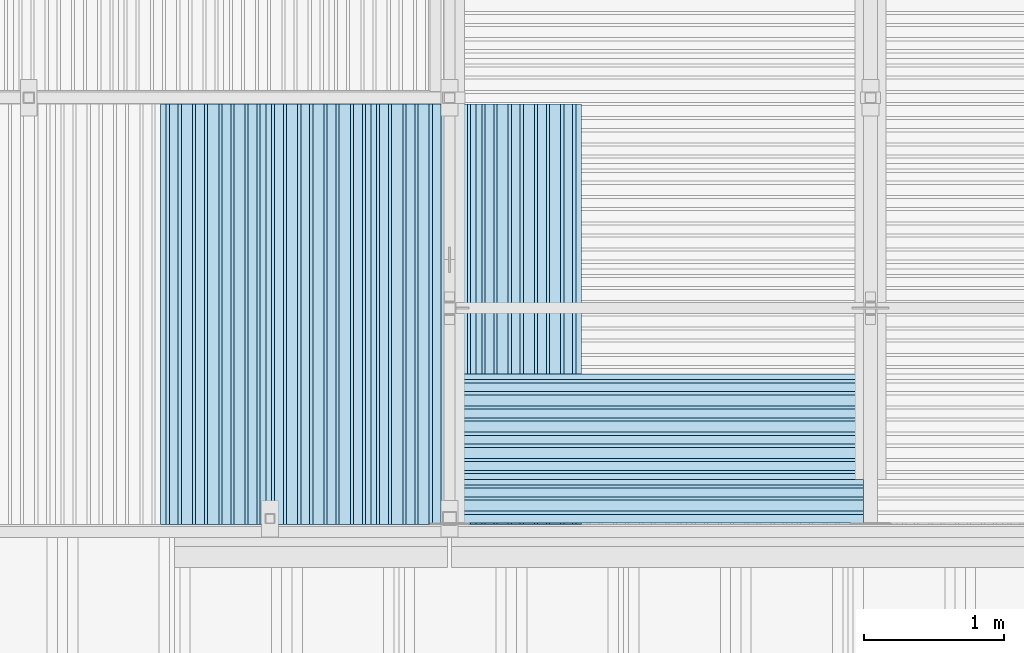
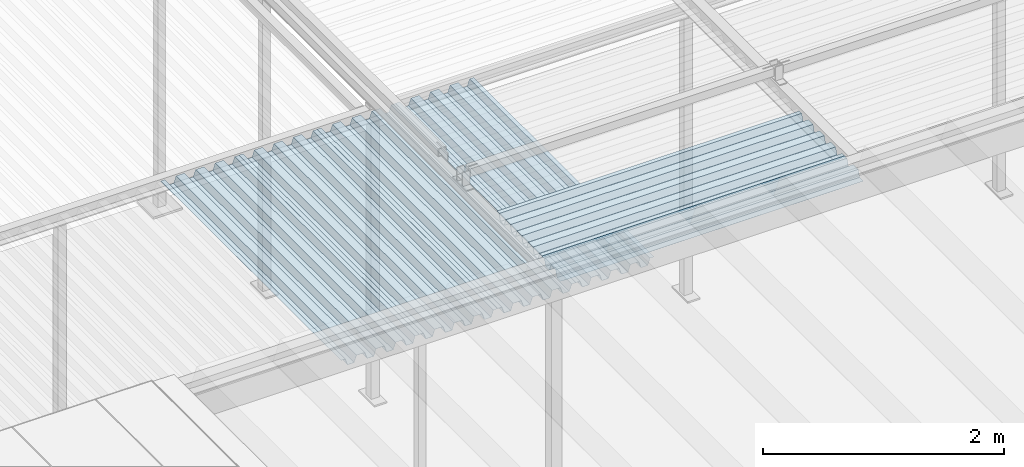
# One storey, part 60 of 98: 6 slabs.
"""IFC2X3 building model written with IfcOpenShell, lengths in millimetres."""

from ifc_helpers import new_model, entity, si_unit, converted_unit, derived_unit, direction, frame, origin_with_axes, place, context, subcontext, project, spatial, faceted_brep, material, type_object, element, save


model = new_model("IFC2X3")

# Units and contexts
model_context = context("Model", 3, precision=0.01, world=frame((0.0, 4.29681676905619e-09, 0.0)), true_north=direction((4.01073788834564e-13, 1.0)))
plan_context = context("Plan", 3, precision=0.01, world=frame((0.0, 4.29681676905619e-09, 0.0)), true_north=direction((4.01073788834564e-13, 1.0)))
body_context = subcontext(model_context, "Body", "Model", "MODEL_VIEW")
ifc_project = project(units=[converted_unit("PLANEANGLEUNIT", "DEGREE", entity("IfcPositiveLengthMeasure", 0.0174532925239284), si_unit("PLANEANGLEUNIT", "RADIAN"), dimensions=[0, 0, 0, 0, 0, 0, 0]), si_unit("AREAUNIT", "SQUARE_METRE"), si_unit("LENGTHUNIT", "METRE", prefix="MILLI"), si_unit("MASSUNIT", "GRAM", prefix="KILO"), si_unit("POWERUNIT", "WATT"), si_unit("PRESSUREUNIT", "PASCAL"), si_unit("FORCEUNIT", "NEWTON", prefix="KILO"), si_unit("ELECTRICCURRENTUNIT", "AMPERE"), si_unit("THERMODYNAMICTEMPERATUREUNIT", "DEGREE_CELSIUS"), si_unit("TIMEUNIT", "SECOND"), si_unit("VOLUMEUNIT", "CUBIC_METRE"), derived_unit("LINEARVELOCITYUNIT", [(si_unit("LENGTHUNIT", "METRE"), 1), (si_unit("TIMEUNIT", "SECOND"), -1)]), derived_unit("VOLUMETRICFLOWRATEUNIT", [(si_unit("VOLUMEUNIT", "CUBIC_METRE"), 1), (si_unit("TIMEUNIT", "SECOND"), -1)]), derived_unit("THERMALTRANSMITTANCEUNIT", [(si_unit("POWERUNIT", "WATT"), 1), (si_unit("THERMODYNAMICTEMPERATUREUNIT", "KELVIN"), -1), (si_unit("AREAUNIT", "SQUARE_METRE"), -1)])], contexts=[model_context, plan_context])

# Site, building, storey
site_placement = place(None, frame((0.0, -4.29681676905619e-09, 0.0), z_axis=(0.0, 0.0, 1.0), x_axis=(1.0, 0.0, 0.0)))
site = spatial("IfcSite", under=ifc_project, at=site_placement, Name="Gardermoen", CompositionType="ELEMENT")
building_placement = place(site_placement, frame((0.0, 4.29681676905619e-09, 0.0), z_axis=(0.0, 0.0, 1.0), x_axis=(1.0, 0.0, 0.0)))
building = spatial("IfcBuilding", under=site, at=building_placement, Name="TS", CompositionType="ELEMENT")
storey_placement = place(building_placement, origin_with_axes())
storey = spatial("IfcBuildingStorey", under=building, at=storey_placement, Name="D", CompositionType="ELEMENT", Elevation=0.0)

# Slabs
ifc_material = material(Name="STEEL/S355")
slab_type = type_object("IfcSlabType", Name="PLANJA70", PredefinedType="NOTDEFINED")
slab_1_placement = place(storey_placement, frame((522950.000000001, 414404.996695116, 206958.849718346), z_axis=(0.0, 0.0, 1.0), x_axis=(-0.999999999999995, -9.99999902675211e-08, 0.0)))
element("IfcSlab", 1, at=slab_1_placement, inside=storey, type_object=slab_type, material=ifc_material, Name="STÅLTAK", ObjectType="PLANJA70", PredefinedType="FLOOR", context=body_context, shape_type="Brep", body=[
    faceted_brep([(0.0, -148.519882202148, 33.1500015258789), (0.0, -126.0, -34.1500015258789), (2900.00079747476, -126.0, -34.1500015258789), (2900.00079747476, -148.519882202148, 33.1500015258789), (0.0, -226.480117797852, 33.1500015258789), (2900.00079747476, -226.480117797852, 33.1500015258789), (0.0, -249.0, -34.1500015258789), (2900.00079747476, -249.0, -34.1500015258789), (0.0, -313.5, -34.1500015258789), (2900.00079747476, -313.5, -34.1500015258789), (0.0, -335.789306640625, 32.1500015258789), (2900.00079747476, -335.789306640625, 32.1500015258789), (0.0, -375.0, 32.1500015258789), (2900.00079747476, -375.0, 32.1500015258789), (0.0, -375.0, 33.1500015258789), (2900.00079747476, -375.0, 33.1500015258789), (0.0, -335.070495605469, 33.1500015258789), (2900.00079747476, -335.070495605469, 33.1500015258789), (0.0, -312.781188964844, -33.1500015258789), (2900.00079747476, -312.781188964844, -33.1500015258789), (0.0, -249.719879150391, -33.1500015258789), (2900.00079747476, -249.719879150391, -33.1500015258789), (0.0, -227.199996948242, 34.1500015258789), (2900.00079747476, -227.199996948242, 34.1500015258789), (0.0, -147.800003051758, 34.1500015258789), (2900.00079747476, -147.800003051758, 34.1500015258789), (0.0, -125.280120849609, -33.1500015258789), (2900.00079747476, -125.280120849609, -33.1500015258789), (2900.00079747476, -62.2198791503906, -33.1500015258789), (0.0, -62.2198791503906, -33.1500015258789), (0.0, -62.2198791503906, -34.1500015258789), (2900.00079747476, -62.2198791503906, -34.1500015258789)], [[[0, 1, 2, 3]], [[4, 0, 3, 5]], [[6, 4, 5, 7]], [[8, 6, 7, 9]], [[10, 8, 9, 11]], [[12, 10, 11, 13]], [[14, 12, 13, 15]], [[16, 14, 15, 17]], [[18, 16, 17, 19]], [[20, 18, 19, 21]], [[22, 20, 21, 23]], [[24, 22, 23, 25]], [[26, 24, 25, 27]], [[26, 27, 28, 29]], [[1, 0, 4, 6, 8, 10, 12, 14, 16, 18, 20, 22, 24, 26, 29, 30]], [[2, 1, 30, 31]], [[27, 25, 23, 21, 19, 17, 15, 13, 11, 9, 7, 5, 3, 2, 31, 28]], [[30, 29, 28, 31]]]),
])
slab_2_placement = place(storey_placement, frame((522950.000000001, 415154.996695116, 206958.849718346), z_axis=(0.0, 0.0, 1.0), x_axis=(-0.999999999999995, -9.99999902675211e-08, 0.0)))
element("IfcSlab", 2, at=slab_2_placement, inside=storey, type_object=slab_type, material=ifc_material, Name="STÅLTAK", ObjectType="PLANJA70", PredefinedType="FLOOR", context=body_context, shape_type="Brep", body=[
    faceted_brep([(0.0, 375.0, 34.1500015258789), (0.0, 335.299987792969, 34.1500015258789), (2900.00079747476, 335.299987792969, 34.1500015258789), (2900.00079747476, 375.0, 34.1500015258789), (0.0, 313.010681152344, -32.1500015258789), (2900.00079747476, 313.010681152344, -32.1500015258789), (0.0, 249.489303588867, -32.1500015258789), (2900.00079747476, 249.489303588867, -32.1500015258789), (0.0, 227.199996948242, 34.1500015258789), (2900.00079747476, 227.199996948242, 34.1500015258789), (0.0, 147.800003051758, 34.1500015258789), (2900.00079747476, 147.800003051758, 34.1500015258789), (0.0, 125.280120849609, -33.1500015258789), (2900.00079747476, 125.280120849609, -33.1500015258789), (0.0, 62.2198791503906, -33.1500015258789), (2900.00079747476, 62.2198791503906, -33.1500015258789), (0.0, 39.7000007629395, 34.1500015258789), (2900.00079747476, 39.7000007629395, 34.1500015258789), (0.0, -39.7000007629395, 34.1500015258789), (2900.00079747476, -39.7000007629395, 34.1500015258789), (0.0, -62.2198791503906, -33.1500015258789), (2900.00079747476, -62.2198791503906, -33.1500015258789), (0.0, -125.280120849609, -33.1500015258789), (2900.00079747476, -125.280120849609, -33.1500015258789), (0.0, -147.800003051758, 34.1500015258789), (2900.00079747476, -147.800003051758, 34.1500015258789), (0.0, -227.199996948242, 34.1500015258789), (2900.00079747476, -227.199996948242, 34.1500015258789), (0.0, -249.719879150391, -33.1500015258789), (2900.00079747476, -249.719879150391, -33.1500015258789), (0.0, -312.781188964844, -33.1500015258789), (2900.00079747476, -312.781188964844, -33.1500015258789), (0.0, -335.070495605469, 33.1500015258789), (2900.00079747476, -335.070495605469, 33.1500015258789), (0.0, -375.0, 33.1500015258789), (2900.00079747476, -375.0, 33.1500015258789), (0.0, -375.0, 32.1500015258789), (2900.00079747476, -375.0, 32.1500015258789), (0.0, -335.789306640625, 32.1500015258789), (2900.00079747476, -335.789306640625, 32.1500015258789), (0.0, -313.5, -34.1500015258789), (2900.00079747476, -313.5, -34.1500015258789), (0.0, -249.0, -34.1500015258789), (2900.00079747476, -249.0, -34.1500015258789), (0.0, -226.480117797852, 33.1500015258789), (2900.00079747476, -226.480117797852, 33.1500015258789), (0.0, -148.519882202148, 33.1500015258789), (2900.00079747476, -148.519882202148, 33.1500015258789), (0.0, -126.0, -34.1500015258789), (2900.00079747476, -126.0, -34.1500015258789), (0.0, -61.5, -34.1500015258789), (2900.00079747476, -61.5, -34.1500015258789), (0.0, -38.9801177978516, 33.1500015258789), (2900.00079747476, -38.9801177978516, 33.1500015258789), (0.0, 38.9801177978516, 33.1500015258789), (2900.00079747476, 38.9801177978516, 33.1500015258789), (0.0, 61.5, -34.1500015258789), (2900.00079747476, 61.5, -34.1500015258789), (0.0, 126.0, -34.1500015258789), (2900.00079747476, 126.0, -34.1500015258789), (0.0, 148.519882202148, 33.1500015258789), (2900.00079747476, 148.519882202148, 33.1500015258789), (0.0, 226.481185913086, 33.1500015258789), (2900.00079747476, 226.481185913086, 33.1500015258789), (0.0, 248.770492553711, -33.1500015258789), (2900.00079747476, 248.770492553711, -33.1500015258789), (0.0, 313.7294921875, -33.1500015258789), (2900.00079747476, 313.7294921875, -33.1500015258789), (0.0, 336.018798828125, 33.1500015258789), (2900.00079747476, 336.018798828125, 33.1500015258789), (0.0, 375.0, 33.1500015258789), (2900.00079747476, 375.0, 33.1500015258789)], [[[0, 1, 2, 3]], [[1, 4, 5, 2]], [[4, 6, 7, 5]], [[6, 8, 9, 7]], [[8, 10, 11, 9]], [[10, 12, 13, 11]], [[12, 14, 15, 13]], [[14, 16, 17, 15]], [[16, 18, 19, 17]], [[18, 20, 21, 19]], [[22, 23, 21, 20]], [[22, 24, 25, 23]], [[24, 26, 27, 25]], [[26, 28, 29, 27]], [[28, 30, 31, 29]], [[30, 32, 33, 31]], [[32, 34, 35, 33]], [[34, 36, 37, 35]], [[36, 38, 39, 37]], [[38, 40, 41, 39]], [[40, 42, 43, 41]], [[42, 44, 45, 43]], [[44, 46, 47, 45]], [[46, 48, 49, 47]], [[48, 50, 51, 49]], [[50, 52, 53, 51]], [[52, 54, 55, 53]], [[54, 56, 57, 55]], [[56, 58, 59, 57]], [[58, 60, 61, 59]], [[60, 62, 63, 61]], [[62, 64, 65, 63]], [[64, 66, 67, 65]], [[66, 68, 69, 67]], [[68, 70, 71, 69]], [[70, 0, 3, 71]], [[5, 7, 9, 11, 13, 15, 17, 19, 21, 23, 25, 27, 29, 31, 33, 35, 37, 39, 41, 43, 45, 47, 49, 51, 53, 55, 57, 59, 61, 63, 65, 67, 69, 71, 3, 2]], [[70, 68, 66, 64, 62, 60, 58, 56, 54, 52, 50, 48, 46, 44, 42, 40, 38, 36, 34, 32, 30, 28, 26, 24, 22, 20, 18, 16, 14, 12, 10, 8, 6, 4, 1, 0]]]),
])
slab_3_placement = place(storey_placement, frame((518314.996695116, 414458.999999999, 206834.129718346), z_axis=(0.0, 0.0, 1.0), x_axis=(0.0, 1.0, 0.0)))
element("IfcSlab", 3, at=slab_3_placement, inside=storey, type_object=slab_type, material=ifc_material, Name="STÅLTAK", ObjectType="PLANJA70", PredefinedType="FLOOR", context=body_context, shape_type="Brep", body=[
    faceted_brep([(0.0, 375.0, 34.1500015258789), (0.0, 335.299987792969, 34.1500015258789), (2995.66049790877, 335.299987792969, 34.1500015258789), (2995.66049790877, 375.0, 34.1500015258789), (0.0, 313.010681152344, -32.1500015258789), (2995.66049790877, 313.010681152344, -32.1500015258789), (0.0, 249.489303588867, -32.1500015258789), (2995.66049790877, 249.489303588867, -32.1500015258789), (0.0, 227.199996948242, 34.1500015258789), (2995.66049790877, 227.199996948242, 34.1500015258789), (0.0, 147.800003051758, 34.1500015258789), (2995.66049790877, 147.800003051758, 34.1500015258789), (0.0, 125.280120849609, -33.1500015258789), (2995.66049790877, 125.280120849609, -33.1500015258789), (0.0, 62.2198791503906, -33.1500015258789), (2995.66049790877, 62.2198791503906, -33.1500015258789), (0.0, 39.7000007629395, 34.1500015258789), (2995.66049790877, 39.7000007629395, 34.1500015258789), (0.0, -39.7000007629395, 34.1500015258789), (2995.66049790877, -39.7000007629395, 34.1500015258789), (0.0, -62.2198791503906, -33.1500015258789), (2995.66049790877, -62.2198791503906, -33.1500015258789), (0.0, -125.280120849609, -33.1500015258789), (2995.66049790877, -125.280120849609, -33.1500015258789), (0.0, -147.800003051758, 34.1500015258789), (2995.66049790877, -147.800003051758, 34.1500015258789), (0.0, -227.199996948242, 34.1500015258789), (2995.66049790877, -227.199996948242, 34.1500015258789), (0.0, -249.719879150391, -33.1500015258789), (2995.66049790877, -249.719879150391, -33.1500015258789), (0.0, -312.781188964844, -33.1500015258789), (2995.66049790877, -312.781188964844, -33.1500015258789), (0.0, -335.070495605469, 33.1500015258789), (2995.66049790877, -335.070495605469, 33.1500015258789), (0.0, -375.0, 33.1500015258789), (2995.66049790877, -375.0, 33.1500015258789), (0.0, -375.0, 32.1500015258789), (2995.66049790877, -375.0, 32.1500015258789), (0.0, -335.789306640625, 32.1500015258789), (2995.66049790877, -335.789306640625, 32.1500015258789), (0.0, -313.5, -34.1500015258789), (2995.66049790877, -313.5, -34.1500015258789), (0.0, -249.0, -34.1500015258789), (2995.66049790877, -249.0, -34.1500015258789), (0.0, -226.480117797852, 33.1500015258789), (2995.66049790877, -226.480117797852, 33.1500015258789), (0.0, -148.519882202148, 33.1500015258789), (2995.66049790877, -148.519882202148, 33.1500015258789), (0.0, -126.0, -34.1500015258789), (2995.66049790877, -126.0, -34.1500015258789), (0.0, -61.5, -34.1500015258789), (2995.66049790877, -61.5, -34.1500015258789), (0.0, -38.9801177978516, 33.1500015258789), (2995.66049790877, -38.9801177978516, 33.1500015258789), (0.0, 38.9801177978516, 33.1500015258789), (2995.66049790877, 38.9801177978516, 33.1500015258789), (0.0, 61.5, -34.1500015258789), (2995.66049790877, 61.5, -34.1500015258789), (0.0, 126.0, -34.1500015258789), (2995.66049790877, 126.0, -34.1500015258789), (0.0, 148.519882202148, 33.1500015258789), (2995.66049790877, 148.519882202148, 33.1500015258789), (0.0, 226.481185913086, 33.1500015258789), (2995.66049790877, 226.481185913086, 33.1500015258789), (0.0, 248.770492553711, -33.1500015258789), (2995.66049790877, 248.770492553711, -33.1500015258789), (0.0, 313.7294921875, -33.1500015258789), (2995.66049790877, 313.7294921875, -33.1500015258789), (0.0, 336.018798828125, 33.1500015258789), (2995.66049790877, 336.018798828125, 33.1500015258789), (0.0, 375.0, 33.1500015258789), (2995.66049790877, 375.0, 33.1500015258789)], [[[0, 1, 2, 3]], [[1, 4, 5, 2]], [[4, 6, 7, 5]], [[6, 8, 9, 7]], [[8, 10, 11, 9]], [[10, 12, 13, 11]], [[12, 14, 15, 13]], [[14, 16, 17, 15]], [[16, 18, 19, 17]], [[18, 20, 21, 19]], [[20, 22, 23, 21]], [[22, 24, 25, 23]], [[24, 26, 27, 25]], [[26, 28, 29, 27]], [[28, 30, 31, 29]], [[30, 32, 33, 31]], [[32, 34, 35, 33]], [[34, 36, 37, 35]], [[36, 38, 39, 37]], [[38, 40, 41, 39]], [[40, 42, 43, 41]], [[42, 44, 45, 43]], [[44, 46, 47, 45]], [[46, 48, 49, 47]], [[48, 50, 51, 49]], [[50, 52, 53, 51]], [[52, 54, 55, 53]], [[54, 56, 57, 55]], [[56, 58, 59, 57]], [[58, 60, 61, 59]], [[60, 62, 63, 61]], [[62, 64, 65, 63]], [[64, 66, 67, 65]], [[66, 68, 69, 67]], [[68, 70, 71, 69]], [[70, 0, 3, 71]], [[5, 7, 9, 11, 13, 15, 17, 19, 21, 23, 25, 27, 29, 31, 33, 35, 37, 39, 41, 43, 45, 47, 49, 51, 53, 55, 57, 59, 61, 63, 65, 67, 69, 71, 3, 2]], [[70, 68, 66, 64, 62, 60, 58, 56, 54, 52, 50, 48, 46, 44, 42, 40, 38, 36, 34, 32, 30, 28, 26, 24, 22, 20, 18, 16, 14, 12, 10, 8, 6, 4, 1, 0]]]),
])
slab_4_placement = place(storey_placement, frame((519064.996695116, 414458.999999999, 206834.129718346), z_axis=(0.0, 0.0, 1.0), x_axis=(0.0, 1.0, 0.0)))
element("IfcSlab", 4, at=slab_4_placement, inside=storey, type_object=slab_type, material=ifc_material, Name="STÅLTAK", ObjectType="PLANJA70", PredefinedType="FLOOR", context=body_context, shape_type="Brep", body=[
    faceted_brep([(0.0, 375.0, 34.1500015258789), (0.0, 335.299987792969, 34.1500015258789), (2995.66049790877, 335.299987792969, 34.1500015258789), (2995.66049790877, 375.0, 34.1500015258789), (0.0, 313.010681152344, -32.1500015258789), (2995.66049790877, 313.010681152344, -32.1500015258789), (0.0, 249.489303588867, -32.1500015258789), (2995.66049790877, 249.489303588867, -32.1500015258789), (0.0, 227.199996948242, 34.1500015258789), (2995.66049790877, 227.199996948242, 34.1500015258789), (0.0, 147.800003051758, 34.1500015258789), (2995.66049790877, 147.800003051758, 34.1500015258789), (0.0, 125.280120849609, -33.1500015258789), (2995.66049790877, 125.280120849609, -33.1500015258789), (0.0, 62.2198791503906, -33.1500015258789), (2995.66049790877, 62.2198791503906, -33.1500015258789), (0.0, 39.7000007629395, 34.1500015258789), (2995.66049790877, 39.7000007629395, 34.1500015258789), (0.0, -39.7000007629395, 34.1500015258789), (2995.66049790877, -39.7000007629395, 34.1500015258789), (0.0, -62.2198791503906, -33.1500015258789), (2995.66049790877, -62.2198791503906, -33.1500015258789), (0.0, -125.280120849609, -33.1500015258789), (2995.66049790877, -125.280120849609, -33.1500015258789), (0.0, -147.800003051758, 34.1500015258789), (2995.66049790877, -147.800003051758, 34.1500015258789), (0.0, -227.199996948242, 34.1500015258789), (2995.66049790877, -227.199996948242, 34.1500015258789), (0.0, -249.719879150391, -33.1500015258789), (2995.66049790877, -249.719879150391, -33.1500015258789), (0.0, -312.781188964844, -33.1500015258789), (2995.66049790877, -312.781188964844, -33.1500015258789), (0.0, -335.070495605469, 33.1500015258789), (2995.66049790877, -335.070495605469, 33.1500015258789), (0.0, -375.0, 33.1500015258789), (2995.66049790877, -375.0, 33.1500015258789), (0.0, -375.0, 32.1500015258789), (2995.66049790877, -375.0, 32.1500015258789), (0.0, -335.789306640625, 32.1500015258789), (2995.66049790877, -335.789306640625, 32.1500015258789), (0.0, -313.5, -34.1500015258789), (2995.66049790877, -313.5, -34.1500015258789), (0.0, -249.0, -34.1500015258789), (2995.66049790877, -249.0, -34.1500015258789), (0.0, -226.480117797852, 33.1500015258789), (2995.66049790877, -226.480117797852, 33.1500015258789), (0.0, -148.519882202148, 33.1500015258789), (2995.66049790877, -148.519882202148, 33.1500015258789), (0.0, -126.0, -34.1500015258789), (2995.66049790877, -126.0, -34.1500015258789), (0.0, -61.5, -34.1500015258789), (2995.66049790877, -61.5, -34.1500015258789), (0.0, -38.9801177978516, 33.1500015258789), (2995.66049790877, -38.9801177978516, 33.1500015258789), (0.0, 38.9801177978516, 33.1500015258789), (2995.66049790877, 38.9801177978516, 33.1500015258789), (0.0, 61.5, -34.1500015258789), (2995.66049790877, 61.5, -34.1500015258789), (0.0, 126.0, -34.1500015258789), (2995.66049790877, 126.0, -34.1500015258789), (0.0, 148.519882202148, 33.1500015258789), (2995.66049790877, 148.519882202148, 33.1500015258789), (0.0, 226.481185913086, 33.1500015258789), (2995.66049790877, 226.481185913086, 33.1500015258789), (0.0, 248.770492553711, -33.1500015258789), (2995.66049790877, 248.770492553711, -33.1500015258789), (0.0, 313.7294921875, -33.1500015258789), (2995.66049790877, 313.7294921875, -33.1500015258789), (0.0, 336.018798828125, 33.1500015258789), (2995.66049790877, 336.018798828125, 33.1500015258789), (0.0, 375.0, 33.1500015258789), (2995.66049790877, 375.0, 33.1500015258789)], [[[0, 1, 2, 3]], [[1, 4, 5, 2]], [[4, 6, 7, 5]], [[6, 8, 9, 7]], [[8, 10, 11, 9]], [[10, 12, 13, 11]], [[12, 14, 15, 13]], [[14, 16, 17, 15]], [[16, 18, 19, 17]], [[18, 20, 21, 19]], [[20, 22, 23, 21]], [[22, 24, 25, 23]], [[24, 26, 27, 25]], [[26, 28, 29, 27]], [[28, 30, 31, 29]], [[30, 32, 33, 31]], [[32, 34, 35, 33]], [[34, 36, 37, 35]], [[36, 38, 39, 37]], [[38, 40, 41, 39]], [[40, 42, 43, 41]], [[42, 44, 45, 43]], [[44, 46, 47, 45]], [[46, 48, 49, 47]], [[48, 50, 51, 49]], [[50, 52, 53, 51]], [[52, 54, 55, 53]], [[54, 56, 57, 55]], [[56, 58, 59, 57]], [[58, 60, 61, 59]], [[60, 62, 63, 61]], [[62, 64, 65, 63]], [[64, 66, 67, 65]], [[66, 68, 69, 67]], [[68, 70, 71, 69]], [[70, 0, 3, 71]], [[5, 7, 9, 11, 13, 15, 17, 19, 21, 23, 25, 27, 29, 31, 33, 35, 37, 39, 41, 43, 45, 47, 49, 51, 53, 55, 57, 59, 61, 63, 65, 67, 69, 71, 3, 2]], [[70, 68, 66, 64, 62, 60, 58, 56, 54, 52, 50, 48, 46, 44, 42, 40, 38, 36, 34, 32, 30, 28, 26, 24, 22, 20, 18, 16, 14, 12, 10, 8, 6, 4, 1, 0]]]),
])
slab_5_placement = place(storey_placement, frame((519814.996695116, 414458.999999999, 206834.129718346), z_axis=(0.0, 0.0, 1.0), x_axis=(0.0, 1.0, 0.0)))
element("IfcSlab", 5, at=slab_5_placement, inside=storey, type_object=slab_type, material=ifc_material, Name="STÅLTAK", ObjectType="PLANJA70", PredefinedType="FLOOR", context=body_context, shape_type="Brep", body=[
    faceted_brep([(0.0, 375.0, 34.1500015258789), (0.0, 335.299987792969, 34.1500015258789), (2995.66049790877, 335.299987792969, 34.1500015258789), (2995.66049790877, 375.0, 34.1500015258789), (0.0, 313.010681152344, -32.1500015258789), (2995.66049790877, 313.010681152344, -32.1500015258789), (0.0, 249.489303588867, -32.1500015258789), (2995.66049790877, 249.489303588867, -32.1500015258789), (0.0, 227.199996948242, 34.1500015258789), (2995.66049790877, 227.199996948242, 34.1500015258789), (0.0, 147.800003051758, 34.1500015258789), (2995.66049790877, 147.800003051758, 34.1500015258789), (0.0, 125.280120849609, -33.1500015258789), (2995.66049790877, 125.280120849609, -33.1500015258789), (0.0, 62.2198791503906, -33.1500015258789), (2995.66049790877, 62.2198791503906, -33.1500015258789), (0.0, 39.7000007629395, 34.1500015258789), (2995.66049790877, 39.7000007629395, 34.1500015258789), (0.0, -39.7000007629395, 34.1500015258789), (2995.66049790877, -39.7000007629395, 34.1500015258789), (0.0, -62.2198791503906, -33.1500015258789), (2995.66049790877, -62.2198791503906, -33.1500015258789), (0.0, -125.280120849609, -33.1500015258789), (2995.66049790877, -125.280120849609, -33.1500015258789), (0.0, -147.800003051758, 34.1500015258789), (2995.66049790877, -147.800003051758, 34.1500015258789), (0.0, -227.199996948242, 34.1500015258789), (2995.66049790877, -227.199996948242, 34.1500015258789), (0.0, -249.719879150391, -33.1500015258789), (2995.66049790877, -249.719879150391, -33.1500015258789), (0.0, -312.781188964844, -33.1500015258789), (2995.66049790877, -312.781188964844, -33.1500015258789), (0.0, -335.070495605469, 33.1500015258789), (2995.66049790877, -335.070495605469, 33.1500015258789), (0.0, -375.0, 33.1500015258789), (2995.66049790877, -375.0, 33.1500015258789), (0.0, -375.0, 32.1500015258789), (2995.66049790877, -375.0, 32.1500015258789), (0.0, -335.789306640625, 32.1500015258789), (2995.66049790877, -335.789306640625, 32.1500015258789), (0.0, -313.5, -34.1500015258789), (2995.66049790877, -313.5, -34.1500015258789), (0.0, -249.0, -34.1500015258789), (2995.66049790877, -249.0, -34.1500015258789), (0.0, -226.480117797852, 33.1500015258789), (2995.66049790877, -226.480117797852, 33.1500015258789), (0.0, -148.519882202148, 33.1500015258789), (2995.66049790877, -148.519882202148, 33.1500015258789), (0.0, -126.0, -34.1500015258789), (2995.66049790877, -126.0, -34.1500015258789), (0.0, -61.5, -34.1500015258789), (2995.66049790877, -61.5, -34.1500015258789), (0.0, -38.9801177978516, 33.1500015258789), (2995.66049790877, -38.9801177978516, 33.1500015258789), (0.0, 38.9801177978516, 33.1500015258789), (2995.66049790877, 38.9801177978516, 33.1500015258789), (0.0, 61.5, -34.1500015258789), (2995.66049790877, 61.5, -34.1500015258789), (0.0, 126.0, -34.1500015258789), (2995.66049790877, 126.0, -34.1500015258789), (0.0, 148.519882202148, 33.1500015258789), (2995.66049790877, 148.519882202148, 33.1500015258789), (0.0, 226.481185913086, 33.1500015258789), (2995.66049790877, 226.481185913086, 33.1500015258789), (0.0, 248.770492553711, -33.1500015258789), (2995.66049790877, 248.770492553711, -33.1500015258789), (0.0, 313.7294921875, -33.1500015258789), (2995.66049790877, 313.7294921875, -33.1500015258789), (0.0, 336.018798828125, 33.1500015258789), (2995.66049790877, 336.018798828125, 33.1500015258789), (0.0, 375.0, 33.1500015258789), (2995.66049790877, 375.0, 33.1500015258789)], [[[0, 1, 2, 3]], [[1, 4, 5, 2]], [[4, 6, 7, 5]], [[6, 8, 9, 7]], [[8, 10, 11, 9]], [[10, 12, 13, 11]], [[12, 14, 15, 13]], [[14, 16, 17, 15]], [[16, 18, 19, 17]], [[18, 20, 21, 19]], [[20, 22, 23, 21]], [[22, 24, 25, 23]], [[24, 26, 27, 25]], [[26, 28, 29, 27]], [[28, 30, 31, 29]], [[30, 32, 33, 31]], [[32, 34, 35, 33]], [[34, 36, 37, 35]], [[36, 38, 39, 37]], [[38, 40, 41, 39]], [[40, 42, 43, 41]], [[42, 44, 45, 43]], [[44, 46, 47, 45]], [[46, 48, 49, 47]], [[48, 50, 51, 49]], [[50, 52, 53, 51]], [[52, 54, 55, 53]], [[54, 56, 57, 55]], [[56, 58, 59, 57]], [[58, 60, 61, 59]], [[60, 62, 63, 61]], [[62, 64, 65, 63]], [[64, 66, 67, 65]], [[66, 68, 69, 67]], [[68, 70, 71, 69]], [[70, 0, 3, 71]], [[5, 7, 9, 11, 13, 15, 17, 19, 21, 23, 25, 27, 29, 31, 33, 35, 37, 39, 41, 43, 45, 47, 49, 51, 53, 55, 57, 59, 61, 63, 65, 67, 69, 71, 3, 2]], [[70, 68, 66, 64, 62, 60, 58, 56, 54, 52, 50, 48, 46, 44, 42, 40, 38, 36, 34, 32, 30, 28, 26, 24, 22, 20, 18, 16, 14, 12, 10, 8, 6, 4, 1, 0]]]),
])
slab_6_placement = place(storey_placement, frame((520564.996695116, 414458.999999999, 206834.129718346), z_axis=(0.0, 0.0, 1.0), x_axis=(0.0, 1.0, 0.0)))
element("IfcSlab", 6, at=slab_6_placement, inside=storey, type_object=slab_type, material=ifc_material, Name="STÅLTAK", ObjectType="PLANJA70", PredefinedType="FLOOR", context=body_context, shape_type="Brep", body=[
    faceted_brep([(0.0, 375.0, 34.1500015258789), (0.0, 335.299987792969, 34.1500015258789), (2995.66049790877, 335.299987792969, 34.1500015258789), (2995.66049790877, 375.0, 34.1500015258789), (0.0, 313.010681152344, -32.1500015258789), (2995.66049790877, 313.010681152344, -32.1500015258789), (0.0, 249.489303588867, -32.1500015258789), (2995.66049790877, 249.489303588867, -32.1500015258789), (0.0, 227.199996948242, 34.1500015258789), (2995.66049790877, 227.199996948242, 34.1500015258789), (0.0, 147.800003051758, 34.1500015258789), (2995.66049790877, 147.800003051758, 34.1500015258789), (0.0, 125.280120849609, -33.1500015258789), (2995.66049790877, 125.280120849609, -33.1500015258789), (0.0, 62.2198791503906, -33.1500015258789), (2995.66049790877, 62.2198791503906, -33.1500015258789), (0.0, 39.7000007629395, 34.1500015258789), (2995.66049790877, 39.7000007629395, 34.1500015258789), (0.0, -39.7000007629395, 34.1500015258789), (2995.66049790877, -39.7000007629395, 34.1500015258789), (0.0, -62.2198791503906, -33.1500015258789), (2995.66049790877, -62.2198791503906, -33.1500015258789), (0.0, -125.280120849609, -33.1500015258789), (2995.66049790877, -125.280120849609, -33.1500015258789), (0.0, -147.800003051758, 34.1500015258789), (2995.66049790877, -147.800003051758, 34.1500015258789), (0.0, -227.199996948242, 34.1500015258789), (2995.66049790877, -227.199996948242, 34.1500015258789), (0.0, -249.719879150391, -33.1500015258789), (2995.66049790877, -249.719879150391, -33.1500015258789), (0.0, -312.781188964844, -33.1500015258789), (2995.66049790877, -312.781188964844, -33.1500015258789), (0.0, -335.070495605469, 33.1500015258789), (2995.66049790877, -335.070495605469, 33.1500015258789), (0.0, -375.0, 33.1500015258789), (2995.66049790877, -375.0, 33.1500015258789), (0.0, -375.0, 32.1500015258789), (2995.66049790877, -375.0, 32.1500015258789), (0.0, -335.789306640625, 32.1500015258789), (2995.66049790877, -335.789306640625, 32.1500015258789), (0.0, -313.5, -34.1500015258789), (2995.66049790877, -313.5, -34.1500015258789), (0.0, -249.0, -34.1500015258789), (2995.66049790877, -249.0, -34.1500015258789), (0.0, -226.480117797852, 33.1500015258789), (2995.66049790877, -226.480117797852, 33.1500015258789), (0.0, -148.519882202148, 33.1500015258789), (2995.66049790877, -148.519882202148, 33.1500015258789), (0.0, -126.0, -34.1500015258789), (2995.66049790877, -126.0, -34.1500015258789), (0.0, -61.5, -34.1500015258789), (2995.66049790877, -61.5, -34.1500015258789), (0.0, -38.9801177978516, 33.1500015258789), (2995.66049790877, -38.9801177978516, 33.1500015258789), (0.0, 38.9801177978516, 33.1500015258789), (2995.66049790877, 38.9801177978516, 33.1500015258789), (0.0, 61.5, -34.1500015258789), (2995.66049790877, 61.5, -34.1500015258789), (0.0, 126.0, -34.1500015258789), (2995.66049790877, 126.0, -34.1500015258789), (0.0, 148.519882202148, 33.1500015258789), (2995.66049790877, 148.519882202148, 33.1500015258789), (0.0, 226.481185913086, 33.1500015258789), (2995.66049790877, 226.481185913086, 33.1500015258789), (0.0, 248.770492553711, -33.1500015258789), (2995.66049790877, 248.770492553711, -33.1500015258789), (0.0, 313.7294921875, -33.1500015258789), (2995.66049790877, 313.7294921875, -33.1500015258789), (0.0, 336.018798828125, 33.1500015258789), (2995.66049790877, 336.018798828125, 33.1500015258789), (0.0, 375.0, 33.1500015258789), (2995.66049790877, 375.0, 33.1500015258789)], [[[0, 1, 2, 3]], [[1, 4, 5, 2]], [[4, 6, 7, 5]], [[6, 8, 9, 7]], [[8, 10, 11, 9]], [[10, 12, 13, 11]], [[12, 14, 15, 13]], [[14, 16, 17, 15]], [[16, 18, 19, 17]], [[18, 20, 21, 19]], [[20, 22, 23, 21]], [[22, 24, 25, 23]], [[24, 26, 27, 25]], [[26, 28, 29, 27]], [[28, 30, 31, 29]], [[30, 32, 33, 31]], [[32, 34, 35, 33]], [[34, 36, 37, 35]], [[36, 38, 39, 37]], [[38, 40, 41, 39]], [[40, 42, 43, 41]], [[42, 44, 45, 43]], [[44, 46, 47, 45]], [[46, 48, 49, 47]], [[48, 50, 51, 49]], [[50, 52, 53, 51]], [[52, 54, 55, 53]], [[54, 56, 57, 55]], [[56, 58, 59, 57]], [[58, 60, 61, 59]], [[60, 62, 63, 61]], [[62, 64, 65, 63]], [[64, 66, 67, 65]], [[66, 68, 69, 67]], [[68, 70, 71, 69]], [[70, 0, 3, 71]], [[5, 7, 9, 11, 13, 15, 17, 19, 21, 23, 25, 27, 29, 31, 33, 35, 37, 39, 41, 43, 45, 47, 49, 51, 53, 55, 57, 59, 61, 63, 65, 67, 69, 71, 3, 2]], [[70, 68, 66, 64, 62, 60, 58, 56, 54, 52, 50, 48, 46, 44, 42, 40, 38, 36, 34, 32, 30, 28, 26, 24, 22, 20, 18, 16, 14, 12, 10, 8, 6, 4, 1, 0]]]),
])

save(model, "model.ifc")
